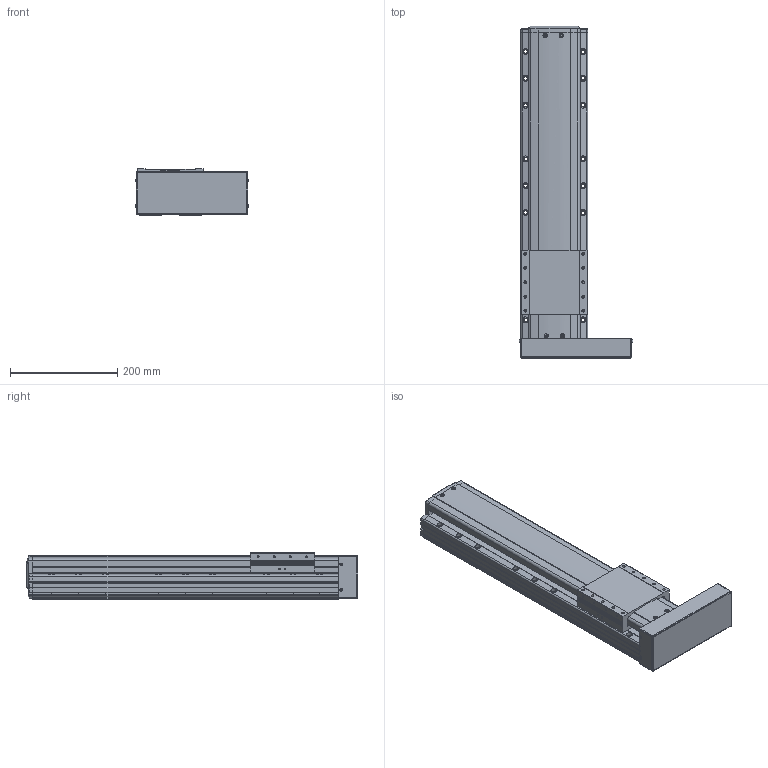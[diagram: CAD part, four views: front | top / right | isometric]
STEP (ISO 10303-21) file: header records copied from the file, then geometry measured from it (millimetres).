
FILE_DESCRIPTION(('STEP AP214'),'1');
FILE_NAME('Z:/Web/3D/PSA125/STP/PSA125-350 (3D)/PSA125ㅁㅁ-350PR.stp','2014-06-22T23:58:16',(' '),(' '),'Spatial InterOp 3D',' ',' ');
FILE_SCHEMA(('automotive_design'));
Length unit declared in the file: millimetre
Products named in the file (23): 스크루 : Round - M4.0 x 10.0; RRCV-PA120; SLIDE; BASE; FRCV-PA120-1(기준 뿔 제거); RR1500; 스크루 : Round - M4.0 x 6.0; 너트 : Square - M10.0 x 220.7419; BTCV - 60A; 스크루 : Round - M3.0 x 6.0
Bounding box: 212.13 x 618.6 x 86 mm (x, y, z)
Volume: 5548601.4 mm3; surface area: 494201.1 mm2
Topology: 23 solids, 23 shells, 1946 faces, 5217 edges, 3318 vertices
Faces by surface type: plane 1054, cylinder 580, cone 212, sphere 44, bspline 31, torus 25
Entity records: 78046 total; most frequent: CARTESIAN_POINT 13152, DIRECTION 10309, ORIENTED_EDGE 10174, EDGE_CURVE 5087, AXIS2_PLACEMENT_3D 3448, LINE 3413, VECTOR 3413, VERTEX_POINT 3318
